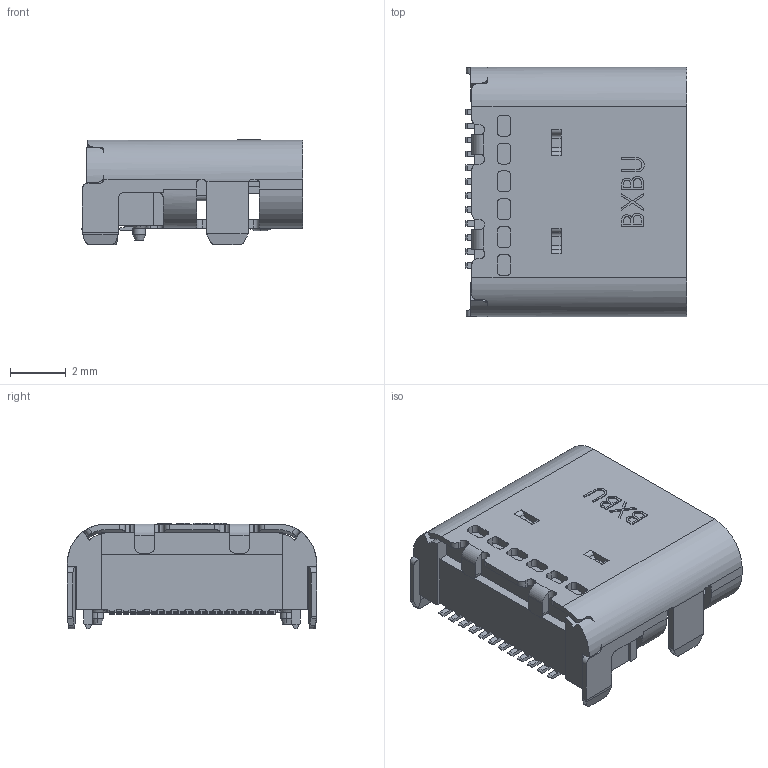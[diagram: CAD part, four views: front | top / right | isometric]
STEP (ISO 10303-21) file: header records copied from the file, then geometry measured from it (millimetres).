
FILE_DESCRIPTION (( 'STEP AP214' ), '1' );
FILE_NAME ('U5112-24PN7.9L.STEP', '2026-05-20T01:31:22', ( '' ), ( '' ), 'SwSTEP 2.0', 'SolidWorks 2024', '' );
FILE_SCHEMA (( 'AUTOMOTIVE_DESIGN' ));
Length unit declared in the file: millimetre
Products named in the file (1): U5112-24PN7.9L
Bounding box: 7.93 x 8.94 x 3.79 mm (x, y, z)
Volume: 127.8 mm3; surface area: 540.1 mm2
Topology: 1 solids, 1 shells, 1114 faces, 3193 edges, 2089 vertices
Faces by surface type: plane 731, cylinder 299, bspline 51, cone 29, torus 4
Entity records: 38922 total; most frequent: CARTESIAN_POINT 10311, ORIENTED_EDGE 6376, DIRECTION 5488, EDGE_CURVE 3188, VECTOR 2180, LINE 2180, VERTEX_POINT 2089, AXIS2_PLACEMENT_3D 1654
